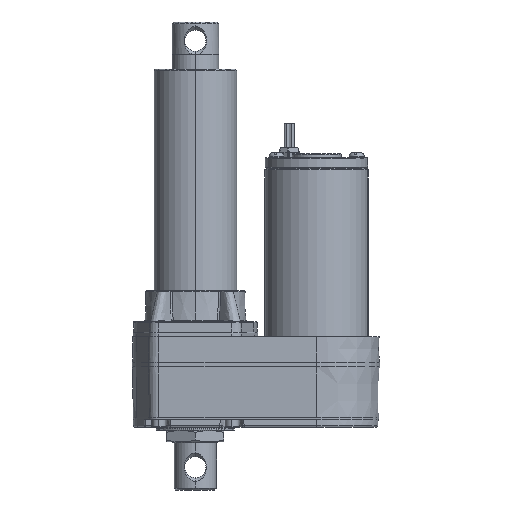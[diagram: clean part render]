
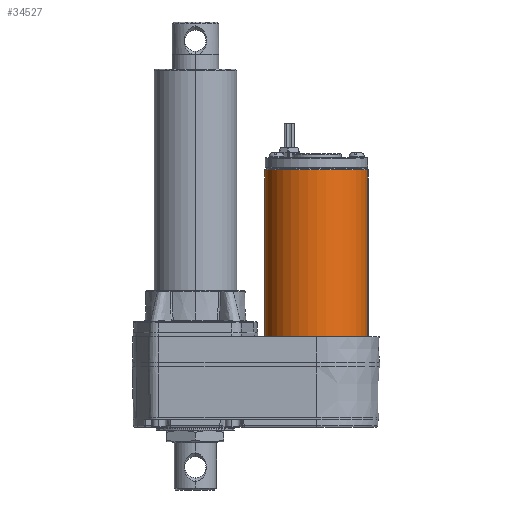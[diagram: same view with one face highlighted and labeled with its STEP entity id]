
A CAD part, left-side view. The second image highlights one B-rep face of the part: STEP entity #34527.
In plain terms, the highlighted cylindrical face has radius 31.75 mm (diameter 63.5 mm), a partial arc.
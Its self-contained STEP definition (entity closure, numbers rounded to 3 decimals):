
#1227 = EDGE_CURVE ( 'NONE', #2815, #34438, #48923, .T. ) ;
#2466 = ORIENTED_EDGE ( 'NONE', *, *, #5517, .F. ) ;
#2593 = DIRECTION ( 'NONE',  ( 0., 0., 1. ) ) ;
#2727 = EDGE_CURVE ( 'NONE', #24924, #36115, #39317, .T. ) ;
#2815 = VERTEX_POINT ( 'NONE', #19799 ) ;
#4766 = AXIS2_PLACEMENT_3D ( 'NONE', #23839, #40575, #11479 ) ;
#5517 = EDGE_CURVE ( 'NONE', #36115, #34438, #21078, .T. ) ;
#6676 = CARTESIAN_POINT ( 'NONE',  ( -149.378, -64.353, 188.255 ) ) ;
#6681 = CARTESIAN_POINT ( 'NONE',  ( -143.865, -33.085, 188.255 ) ) ;
#11479 = DIRECTION ( 'NONE',  ( 1., 0., 0. ) ) ;
#11880 = CIRCLE ( 'NONE', #4766, 31.75 ) ;
#11926 = EDGE_CURVE ( 'NONE', #24924, #2815, #11880, .T. ) ;
#12616 = VECTOR ( 'NONE', #18766, 1000. ) ;
#14050 = DIRECTION ( 'NONE',  ( 0., 0., 1. ) ) ;
#15182 = FACE_OUTER_BOUND ( 'NONE', #15859, .T. ) ;
#15445 = CARTESIAN_POINT ( 'NONE',  ( -149.378, -64.353, 180.755 ) ) ;
#15859 = EDGE_LOOP ( 'NONE', ( #17751, #30628, #34750, #2466 ) ) ;
#17751 = ORIENTED_EDGE ( 'NONE', *, *, #2727, .F. ) ;
#18195 = CARTESIAN_POINT ( 'NONE',  ( -138.351, -1.817, 188.255 ) ) ;
#18766 = DIRECTION ( 'NONE',  ( 0., 0., 1. ) ) ;
#19799 = CARTESIAN_POINT ( 'NONE',  ( -149.378, -64.353, 78.355 ) ) ;
#20855 = CARTESIAN_POINT ( 'NONE',  ( -138.351, -1.817, 180.755 ) ) ;
#21078 = CIRCLE ( 'NONE', #49979, 31.75 ) ;
#23690 = DIRECTION ( 'NONE',  ( -0.174, -0.985, 0. ) ) ;
#23839 = CARTESIAN_POINT ( 'NONE',  ( -143.865, -33.085, 78.355 ) ) ;
#24924 = VERTEX_POINT ( 'NONE', #35623 ) ;
#30628 = ORIENTED_EDGE ( 'NONE', *, *, #11926, .T. ) ;
#32477 = AXIS2_PLACEMENT_3D ( 'NONE', #6681, #2593, #23690 ) ;
#34438 = VERTEX_POINT ( 'NONE', #15445 ) ;
#34527 = ADVANCED_FACE ( 'NONE', ( #15182 ), #44276, .T. ) ;
#34750 = ORIENTED_EDGE ( 'NONE', *, *, #1227, .T. ) ;
#35623 = CARTESIAN_POINT ( 'NONE',  ( -138.351, -1.817, 78.355 ) ) ;
#35793 = DIRECTION ( 'NONE',  ( -0.174, -0.985, 0. ) ) ;
#36055 = DIRECTION ( 'NONE',  ( 0., 0., 1. ) ) ;
#36115 = VERTEX_POINT ( 'NONE', #20855 ) ;
#39317 = LINE ( 'NONE', #18195, #49256 ) ;
#40575 = DIRECTION ( 'NONE',  ( 0., 0., 1. ) ) ;
#44276 = CYLINDRICAL_SURFACE ( 'NONE', #32477, 31.75 ) ;
#44551 = CARTESIAN_POINT ( 'NONE',  ( -143.865, -33.085, 180.755 ) ) ;
#48923 = LINE ( 'NONE', #6676, #12616 ) ;
#49256 = VECTOR ( 'NONE', #14050, 1000. ) ;
#49979 = AXIS2_PLACEMENT_3D ( 'NONE', #44551, #36055, #35793 ) ;
